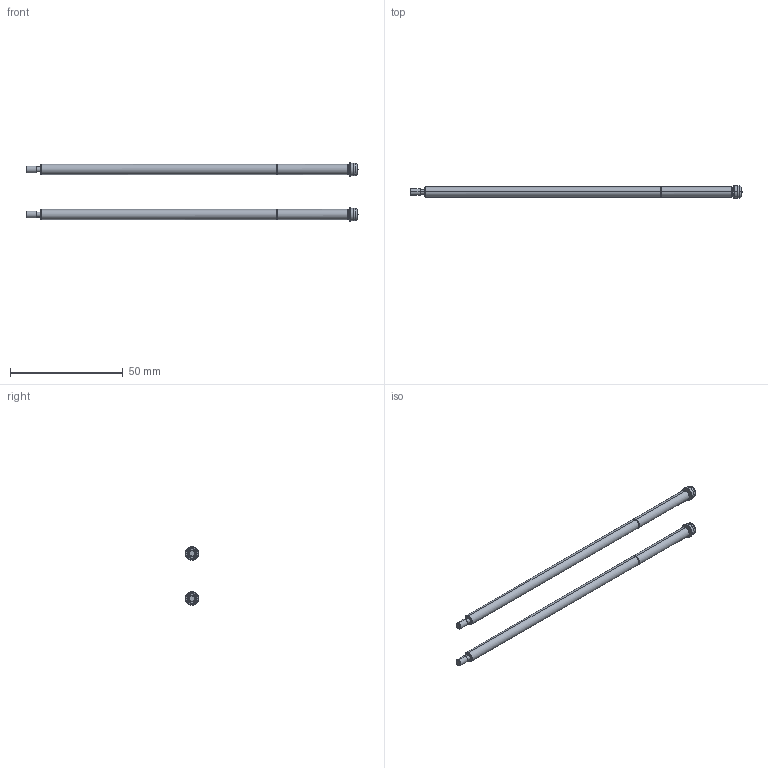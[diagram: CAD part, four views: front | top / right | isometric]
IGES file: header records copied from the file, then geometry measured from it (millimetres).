
Start section: ------------------------------------------------------------------------
Bounding box: 147.4 x 6 x 26 mm (x, y, z)
Volume: 4451.3 mm3; surface area: 5005.2 mm2
Topology: 6 solids, 6 shells, 144 faces, 288 edges, 166 vertices
Faces by surface type: bspline 144
